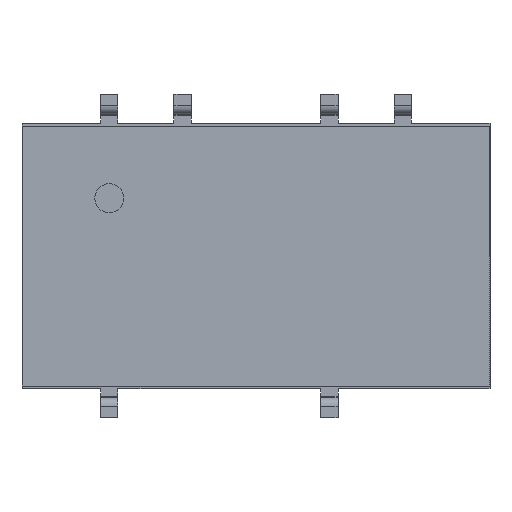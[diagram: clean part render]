
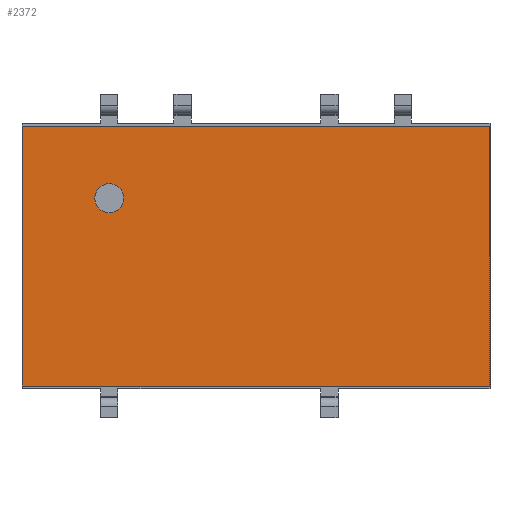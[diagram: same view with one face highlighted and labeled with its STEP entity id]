
A CAD part, front view. The second image highlights one B-rep face of the part: STEP entity #2372.
In plain terms, the highlighted planar face has unit normal (0, -1, 0).
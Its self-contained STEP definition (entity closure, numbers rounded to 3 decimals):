
#402 = CARTESIAN_POINT ( 'NONE',  ( -8.1, -1.4, 4.5 ) ) ;
#908 = DIRECTION ( 'NONE',  ( -1., 0., 0. ) ) ;
#1151 = CARTESIAN_POINT ( 'NONE',  ( -8.1, -1.4, -4.5 ) ) ;
#1688 = CARTESIAN_POINT ( 'NONE',  ( 8.1, -1.4, -4.5 ) ) ;
#1848 = CARTESIAN_POINT ( 'NONE',  ( 8.1, -1.4, -4.5 ) ) ;
#2084 = VERTEX_POINT ( 'NONE', #1848 ) ;
#2372 = ADVANCED_FACE ( 'NONE', ( #4852, #7937 ), #3632, .F. ) ;
#2423 = CARTESIAN_POINT ( 'NONE',  ( 8.1, -1.4, 4.5 ) ) ;
#2588 = VECTOR ( 'NONE', #11726, 1000. ) ;
#3464 = AXIS2_PLACEMENT_3D ( 'NONE', #4129, #5143, #9526 ) ;
#3582 = EDGE_LOOP ( 'NONE', ( #3715 ) ) ;
#3632 = PLANE ( 'NONE',  #5869 ) ;
#3687 = ORIENTED_EDGE ( 'NONE', *, *, #13965, .F. ) ;
#3715 = ORIENTED_EDGE ( 'NONE', *, *, #8818, .F. ) ;
#3874 = CARTESIAN_POINT ( 'NONE',  ( -8.1, -1.4, 4.5 ) ) ;
#3977 = EDGE_CURVE ( 'NONE', #9286, #5372, #12714, .T. ) ;
#4113 = LINE ( 'NONE', #1688, #2588 ) ;
#4129 = CARTESIAN_POINT ( 'NONE',  ( -5.08, -1.4, 2. ) ) ;
#4141 = EDGE_CURVE ( 'NONE', #9104, #9286, #5322, .T. ) ;
#4852 = FACE_BOUND ( 'NONE', #3582, .T. ) ;
#5052 = CARTESIAN_POINT ( 'NONE',  ( -8.1, -1.4, 4.5 ) ) ;
#5143 = DIRECTION ( 'NONE',  ( 0., -1., 0. ) ) ;
#5235 = VECTOR ( 'NONE', #908, 1000. ) ;
#5322 = LINE ( 'NONE', #1151, #9496 ) ;
#5372 = VERTEX_POINT ( 'NONE', #2423 ) ;
#5792 = DIRECTION ( 'NONE',  ( 0., 1., 0. ) ) ;
#5828 = VECTOR ( 'NONE', #10485, 1000. ) ;
#5869 = AXIS2_PLACEMENT_3D ( 'NONE', #402, #5792, #8002 ) ;
#6448 = CIRCLE ( 'NONE', #3464, 0.5 ) ;
#6648 = CARTESIAN_POINT ( 'NONE',  ( -5.08, -1.4, 1.5 ) ) ;
#6791 = VERTEX_POINT ( 'NONE', #6648 ) ;
#7937 = FACE_OUTER_BOUND ( 'NONE', #10814, .T. ) ;
#8002 = DIRECTION ( 'NONE',  ( 0., 0., 1. ) ) ;
#8273 = ORIENTED_EDGE ( 'NONE', *, *, #12462, .F. ) ;
#8818 = EDGE_CURVE ( 'NONE', #6791, #6791, #6448, .T. ) ;
#9104 = VERTEX_POINT ( 'NONE', #12590 ) ;
#9286 = VERTEX_POINT ( 'NONE', #5052 ) ;
#9496 = VECTOR ( 'NONE', #9913, 1000. ) ;
#9526 = DIRECTION ( 'NONE',  ( 0., 0., -1. ) ) ;
#9913 = DIRECTION ( 'NONE',  ( 0., 0., 1. ) ) ;
#10485 = DIRECTION ( 'NONE',  ( 1., 0., 0. ) ) ;
#10746 = LINE ( 'NONE', #11970, #5235 ) ;
#10814 = EDGE_LOOP ( 'NONE', ( #14090, #3687, #8273, #12959 ) ) ;
#11726 = DIRECTION ( 'NONE',  ( 0., 0., -1. ) ) ;
#11970 = CARTESIAN_POINT ( 'NONE',  ( -8.1, -1.4, -4.5 ) ) ;
#12462 = EDGE_CURVE ( 'NONE', #5372, #2084, #4113, .T. ) ;
#12590 = CARTESIAN_POINT ( 'NONE',  ( -8.1, -1.4, -4.5 ) ) ;
#12714 = LINE ( 'NONE', #3874, #5828 ) ;
#12959 = ORIENTED_EDGE ( 'NONE', *, *, #3977, .F. ) ;
#13965 = EDGE_CURVE ( 'NONE', #2084, #9104, #10746, .T. ) ;
#14090 = ORIENTED_EDGE ( 'NONE', *, *, #4141, .F. ) ;
